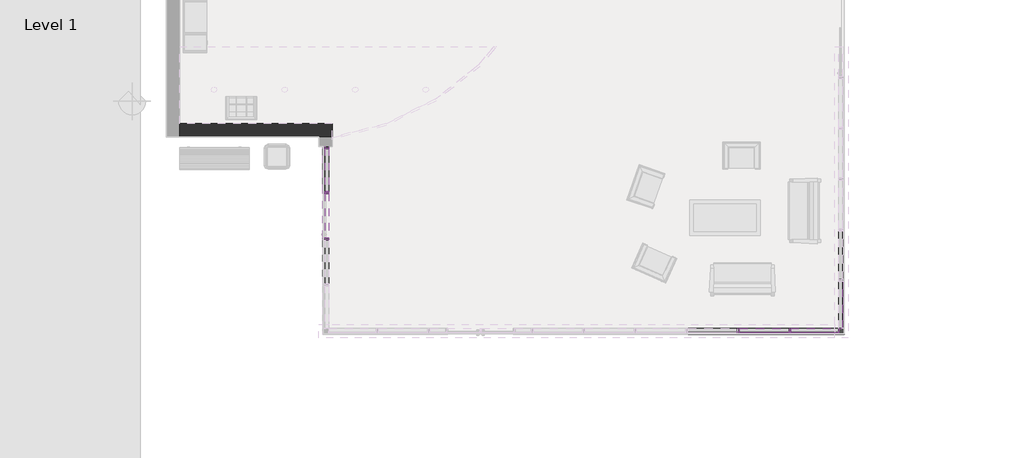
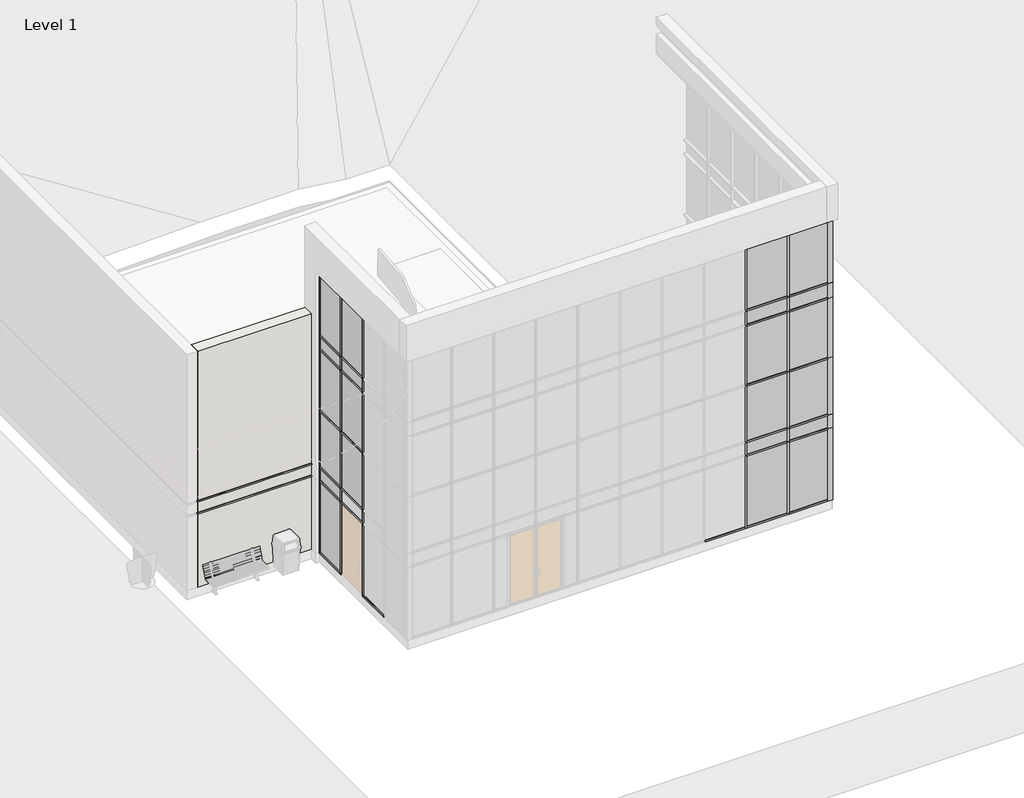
# One storey, part 3 of 6: 68 members, 29 plates, 1 wall.
"""IFC4 building model written with IfcOpenShell, lengths in millimetres."""

from ifc_helpers import new_model, si_unit, origin, place, context, project, spatial, faceted_brep, transform, mapped, element, save
from components import quad_corner_mullion_quad_mullion_1_fda5a4be, quad_corner_mullion_quad_mullion_1_bcb46a8a, quad_corner_mullion_quad_mullion_1_d3d17435, quad_corner_mullion_quad_mullion_1_17698892, quad_corner_mullion_quad_mullion_1_257211b5, quad_corner_mullion_quad_mullion_1_d4d7d3a7, rectangular_mullion_50_x_150mm_ae6afb2b, rectangular_mullion_50_x_150mm_9277cc62, rectangular_mullion_50_x_150mm_116e1582, rectangular_mullion_50_x_150mm_4a8db126, rectangular_mullion_50_x_150mm_f0eb3f16, rectangular_mullion_50_x_150mm_ef179906, rectangular_mullion_50_x_150mm_169d2d5c, rectangular_mullion_50_x_150mm_a98d9a75, rectangular_mullion_50_x_150mm_e5e1dcca, rectangular_mullion_50_x_150mm_47c0eb49, rectangular_mullion_50_x_150mm_2677f012, rectangular_mullion_50_x_150mm_686aa266, rectangular_mullion_50_x_150mm_55a91b40, rectangular_mullion_50_x_150mm_fd087c06, rectangular_mullion_50_x_150mm_fb94c6f7, rectangular_mullion_50_x_150mm_e243c0e9, rectangular_mullion_50_x_150mm_1c0c8fcc, rectangular_mullion_50_x_150mm_eadac301, rectangular_mullion_50_x_150mm_5d9cdbe7, rectangular_mullion_50_x_150mm_d8a6659f, rectangular_mullion_50_x_150mm_c664ab49, rectangular_mullion_50_x_150mm_22f77a7a, system_panel_glazed_b7e011ba, system_panel_glazed_fa8e781c, system_panel_glazed_2755e160, system_panel_glazed_915f67fa, system_panel_glazed_d3095f7c, system_panel_glazed_40405178, system_panel_glazed_9a941065, system_panel_glazed_8cd55946, system_panel_glazed_23c7b05c, system_panel_glazed_1235180c, system_panel_glazed_c9174913, system_panel_glazed_3aaf1b15, system_panel_glazed_c71bf8b9, system_panel_glazed_c9745aa0, system_panel_glazed_3c257985, system_panel_glazed_e39aac95, system_panel_glazed_619aa5c3, system_panel_glazed_1cc95e9d, system_panel_glazed_5f4b9808, system_panel_glazed_b287760b, system_panel_glazed_29643dd6, system_panel_glazed_af9e971b, system_panel_glazed_48c6fd0a, system_panel_glazed_b8e40a07, system_panel_glazed_b5705625, system_panel_glazed_676078d9, system_panel_glazed_869bd01b

model = new_model("IFC4")

# Units and contexts
model_context = context("Model", 3, world=origin())
ifc_project = project(units=[si_unit("LENGTHUNIT", "METRE", prefix="MILLI")], contexts=[model_context])

# Site, building, storey
site = spatial("IfcSite", under=ifc_project)
building = spatial("IfcBuilding", under=site)
storey = spatial("IfcBuildingStorey", under=building, Name="Level 1", Elevation=45720.0)

# Members
placement = place(None, origin())
quad_corner_mullion_quad_mullion_1_shape = quad_corner_mullion_quad_mullion_1_fda5a4be(model_context)
element("IfcMember", 1, ObjectType="Quad Corner Mullion : Quad Mullion 1", at=placement, inside=storey, context=model_context, shape_type="MappedRepresentation", body=[
    mapped(quad_corner_mullion_quad_mullion_1_shape, transform((3237.9561928, -8109.3373862, 55168.8), x_axis=(1.0, 0.0, 0.0), y_axis=(0.0, 1.0, 0.0), z_axis=(0.0, 0.0, 1.0))),
])
quad_corner_mullion_quad_mullion_1_2_shape = quad_corner_mullion_quad_mullion_1_bcb46a8a(model_context)
element("IfcMember", 2, ObjectType="Quad Corner Mullion : Quad Mullion 1", at=placement, inside=storey, context=model_context, shape_type="MappedRepresentation", body=[
    mapped(quad_corner_mullion_quad_mullion_1_2_shape, transform((3237.9561928, -8109.3373862, 48158.4), x_axis=(1.0, 0.0, 0.0), y_axis=(0.0, 1.0, 0.0), z_axis=(0.0, 0.0, 1.0))),
])
quad_corner_mullion_quad_mullion_1_3_shape = quad_corner_mullion_quad_mullion_1_d3d17435(model_context)
element("IfcMember", 3, ObjectType="Quad Corner Mullion : Quad Mullion 1", at=placement, inside=storey, context=model_context, shape_type="MappedRepresentation", body=[
    mapped(quad_corner_mullion_quad_mullion_1_3_shape, transform((3237.9561928, -8109.3373862, 48615.6), x_axis=(1.0, 0.0, 0.0), y_axis=(0.0, 1.0, 0.0), z_axis=(0.0, 0.0, 1.0))),
])
quad_corner_mullion_quad_mullion_1_4_shape = quad_corner_mullion_quad_mullion_1_17698892(model_context)
element("IfcMember", 4, ObjectType="Quad Corner Mullion : Quad Mullion 1", at=placement, inside=storey, context=model_context, shape_type="MappedRepresentation", body=[
    mapped(quad_corner_mullion_quad_mullion_1_4_shape, transform((3237.9561928, -8109.3373862, 50520.0), x_axis=(1.0, 0.0, 0.0), y_axis=(0.0, 1.0, 0.0), z_axis=(0.0, 0.0, 1.0))),
])
quad_corner_mullion_quad_mullion_1_5_shape = quad_corner_mullion_quad_mullion_1_257211b5(model_context)
element("IfcMember", 5, ObjectType="Quad Corner Mullion : Quad Mullion 1", at=placement, inside=storey, context=model_context, shape_type="MappedRepresentation", body=[
    mapped(quad_corner_mullion_quad_mullion_1_5_shape, transform((3237.9561928, -8109.3373862, 53035.2), x_axis=(1.0, 0.0, 0.0), y_axis=(0.0, 1.0, 0.0), z_axis=(0.0, 0.0, 1.0))),
])
quad_corner_mullion_quad_mullion_1_6_shape = quad_corner_mullion_quad_mullion_1_d4d7d3a7(model_context)
element("IfcMember", 6, ObjectType="Quad Corner Mullion : Quad Mullion 1", at=placement, inside=storey, context=model_context, shape_type="MappedRepresentation", body=[
    mapped(quad_corner_mullion_quad_mullion_1_6_shape, transform((3237.9561928, -8109.3373862, 52535.2), x_axis=(1.0, 0.0, 0.0), y_axis=(0.0, 1.0, 0.0), z_axis=(0.0, 0.0, 1.0))),
])
rectangular_mullion_50_x_150mm_shape = rectangular_mullion_50_x_150mm_ae6afb2b(model_context)
element("IfcMember", 7, ObjectType="Rectangular Mullion : 50 x 150mm", at=placement, inside=storey, context=model_context, shape_type="MappedRepresentation", body=[
    mapped(rectangular_mullion_50_x_150mm_shape, transform((-10125.6188072, -4493.4123862, 55168.8), x_axis=(0.0, 0.0, 1.0), y_axis=(-1.0, 0.0, 0.0), z_axis=(0.0, -1.0, 0.0))),
])
rectangular_mullion_50_x_150mm_2_shape = rectangular_mullion_50_x_150mm_9277cc62(model_context)
element("IfcMember", 8, ObjectType="Rectangular Mullion : 50 x 150mm", at=placement, inside=storey, context=model_context, shape_type="MappedRepresentation", body=[
    mapped(rectangular_mullion_50_x_150mm_2_shape, transform((-10125.6188072, -5690.3873862, 55168.8), x_axis=(0.0, 0.0, 1.0), y_axis=(-1.0, 0.0, 0.0), z_axis=(0.0, -1.0, 0.0))),
])
element("IfcMember", 9, ObjectType="Rectangular Mullion : 50 x 150mm", at=placement, inside=storey, context=model_context, shape_type="MappedRepresentation", body=[
    mapped(rectangular_mullion_50_x_150mm_shape, transform((-10125.6188072, -3371.4373862, 45720.0), x_axis=(0.0, 0.0, -1.0), y_axis=(-1.0, 0.0, 0.0), z_axis=(0.0, 1.0, 0.0))),
])
element("IfcMember", 10, ObjectType="Rectangular Mullion : 50 x 150mm", at=placement, inside=storey, context=model_context, shape_type="MappedRepresentation", body=[
    mapped(rectangular_mullion_50_x_150mm_2_shape, transform((-10125.6188072, -5740.3873862, 45720.0), x_axis=(0.0, 0.0, -1.0), y_axis=(-1.0, 0.0, 0.0), z_axis=(0.0, 1.0, 0.0))),
])
rectangular_mullion_50_x_150mm_3_shape = rectangular_mullion_50_x_150mm_116e1582(model_context)
element("IfcMember", 11, ObjectType="Rectangular Mullion : 50 x 150mm", at=placement, inside=storey, context=model_context, shape_type="MappedRepresentation", body=[
    mapped(rectangular_mullion_50_x_150mm_3_shape, transform((-10125.6188072, -3321.4373862, 55168.8), x_axis=(0.0, 1.0, 0.0), y_axis=(-1.0, 0.0, 0.0), z_axis=(0.0, 0.0, 1.0))),
])
rectangular_mullion_50_x_150mm_4_shape = rectangular_mullion_50_x_150mm_4a8db126(model_context)
element("IfcMember", 12, ObjectType="Rectangular Mullion : 50 x 150mm", at=placement, inside=storey, context=model_context, shape_type="MappedRepresentation", body=[
    mapped(rectangular_mullion_50_x_150mm_4_shape, transform((-10125.6188072, -3321.4373862, 48158.4), x_axis=(0.0, 1.0, 0.0), y_axis=(-1.0, 0.0, 0.0), z_axis=(0.0, 0.0, 1.0))),
])
rectangular_mullion_50_x_150mm_5_shape = rectangular_mullion_50_x_150mm_f0eb3f16(model_context)
element("IfcMember", 13, ObjectType="Rectangular Mullion : 50 x 150mm", at=placement, inside=storey, context=model_context, shape_type="MappedRepresentation", body=[
    mapped(rectangular_mullion_50_x_150mm_5_shape, transform((-10125.6188072, -3321.4373862, 50520.0), x_axis=(0.0, 1.0, 0.0), y_axis=(-1.0, 0.0, 0.0), z_axis=(0.0, 0.0, 1.0))),
])
rectangular_mullion_50_x_150mm_6_shape = rectangular_mullion_50_x_150mm_ef179906(model_context)
element("IfcMember", 14, ObjectType="Rectangular Mullion : 50 x 150mm", at=placement, inside=storey, context=model_context, shape_type="MappedRepresentation", body=[
    mapped(rectangular_mullion_50_x_150mm_6_shape, transform((-10125.6188072, -4493.4123862, 48158.4), x_axis=(0.0, 0.0, 1.0), y_axis=(-1.0, 0.0, 0.0), z_axis=(0.0, -1.0, 0.0))),
])
element("IfcMember", 15, ObjectType="Rectangular Mullion : 50 x 150mm", at=placement, inside=storey, context=model_context, shape_type="MappedRepresentation", body=[
    mapped(rectangular_mullion_50_x_150mm_6_shape, transform((-10125.6188072, -4493.4123862, 50520.0), x_axis=(0.0, 0.0, 1.0), y_axis=(-1.0, 0.0, 0.0), z_axis=(0.0, -1.0, 0.0))),
])
element("IfcMember", 16, ObjectType="Rectangular Mullion : 50 x 150mm", at=placement, inside=storey, context=model_context, shape_type="MappedRepresentation", body=[
    mapped(rectangular_mullion_50_x_150mm_6_shape, transform((-10125.6188072, -4493.4123862, 53035.2), x_axis=(0.0, 0.0, 1.0), y_axis=(-1.0, 0.0, 0.0), z_axis=(0.0, -1.0, 0.0))),
])
element("IfcMember", 17, ObjectType="Rectangular Mullion : 50 x 150mm", at=placement, inside=storey, context=model_context, shape_type="MappedRepresentation", body=[
    mapped(rectangular_mullion_50_x_150mm_6_shape, transform((-10125.6188072, -4493.4123862, 48615.6), x_axis=(0.0, 0.0, 1.0), y_axis=(-1.0, 0.0, 0.0), z_axis=(0.0, -1.0, 0.0))),
])
element("IfcMember", 18, ObjectType="Rectangular Mullion : 50 x 150mm", at=placement, inside=storey, context=model_context, shape_type="MappedRepresentation", body=[
    mapped(rectangular_mullion_50_x_150mm_6_shape, transform((-10125.6188072, -4493.4123862, 52578.0), x_axis=(0.0, 0.0, 1.0), y_axis=(-1.0, 0.0, 0.0), z_axis=(0.0, -1.0, 0.0))),
])
rectangular_mullion_50_x_150mm_7_shape = rectangular_mullion_50_x_150mm_169d2d5c(model_context)
element("IfcMember", 19, ObjectType="Rectangular Mullion : 50 x 150mm", at=placement, inside=storey, context=model_context, shape_type="MappedRepresentation", body=[
    mapped(rectangular_mullion_50_x_150mm_7_shape, transform((-10125.6188072, -5690.3873862, 48158.4), x_axis=(0.0, 0.0, 1.0), y_axis=(-1.0, 0.0, 0.0), z_axis=(0.0, -1.0, 0.0))),
])
element("IfcMember", 20, ObjectType="Rectangular Mullion : 50 x 150mm", at=placement, inside=storey, context=model_context, shape_type="MappedRepresentation", body=[
    mapped(rectangular_mullion_50_x_150mm_7_shape, transform((-10125.6188072, -5690.3873862, 50520.0), x_axis=(0.0, 0.0, 1.0), y_axis=(-1.0, 0.0, 0.0), z_axis=(0.0, -1.0, 0.0))),
])
element("IfcMember", 21, ObjectType="Rectangular Mullion : 50 x 150mm", at=placement, inside=storey, context=model_context, shape_type="MappedRepresentation", body=[
    mapped(rectangular_mullion_50_x_150mm_7_shape, transform((-10125.6188072, -5690.3873862, 53035.2), x_axis=(0.0, 0.0, 1.0), y_axis=(-1.0, 0.0, 0.0), z_axis=(0.0, -1.0, 0.0))),
])
element("IfcMember", 22, ObjectType="Rectangular Mullion : 50 x 150mm", at=placement, inside=storey, context=model_context, shape_type="MappedRepresentation", body=[
    mapped(rectangular_mullion_50_x_150mm_7_shape, transform((-10125.6188072, -5690.3873862, 48615.6), x_axis=(0.0, 0.0, 1.0), y_axis=(-1.0, 0.0, 0.0), z_axis=(0.0, -1.0, 0.0))),
])
element("IfcMember", 23, ObjectType="Rectangular Mullion : 50 x 150mm", at=placement, inside=storey, context=model_context, shape_type="MappedRepresentation", body=[
    mapped(rectangular_mullion_50_x_150mm_7_shape, transform((-10125.6188072, -5690.3873862, 52578.0), x_axis=(0.0, 0.0, 1.0), y_axis=(-1.0, 0.0, 0.0), z_axis=(0.0, -1.0, 0.0))),
])
rectangular_mullion_50_x_150mm_8_shape = rectangular_mullion_50_x_150mm_a98d9a75(model_context)
element("IfcMember", 24, ObjectType="Rectangular Mullion : 50 x 150mm", at=placement, inside=storey, context=model_context, shape_type="MappedRepresentation", body=[
    mapped(rectangular_mullion_50_x_150mm_8_shape, transform((-10125.6188072, -4518.4123862, 45720.0), x_axis=(0.0, -1.0, 0.0), y_axis=(-1.0, 0.0, 0.0), z_axis=(0.0, 0.0, -1.0))),
])
element("IfcMember", 25, ObjectType="Rectangular Mullion : 50 x 150mm", at=placement, inside=storey, context=model_context, shape_type="MappedRepresentation", body=[
    mapped(rectangular_mullion_50_x_150mm_8_shape, transform((-10125.6188072, -5715.3873862, 45720.0), x_axis=(0.0, -1.0, 0.0), y_axis=(-1.0, 0.0, 0.0), z_axis=(0.0, 0.0, -1.0))),
])
rectangular_mullion_50_x_150mm_9_shape = rectangular_mullion_50_x_150mm_e5e1dcca(model_context)
element("IfcMember", 26, ObjectType="Rectangular Mullion : 50 x 150mm", at=placement, inside=storey, context=model_context, shape_type="MappedRepresentation", body=[
    mapped(rectangular_mullion_50_x_150mm_9_shape, transform((-10125.6188072, -4518.4123862, 48158.4), x_axis=(0.0, -1.0, 0.0), y_axis=(-1.0, 0.0, 0.0), z_axis=(0.0, 0.0, -1.0))),
])
element("IfcMember", 27, ObjectType="Rectangular Mullion : 50 x 150mm", at=placement, inside=storey, context=model_context, shape_type="MappedRepresentation", body=[
    mapped(rectangular_mullion_50_x_150mm_9_shape, transform((-10125.6188072, -5715.3873862, 48158.4), x_axis=(0.0, -1.0, 0.0), y_axis=(-1.0, 0.0, 0.0), z_axis=(0.0, 0.0, -1.0))),
])
element("IfcMember", 28, ObjectType="Rectangular Mullion : 50 x 150mm", at=placement, inside=storey, context=model_context, shape_type="MappedRepresentation", body=[
    mapped(rectangular_mullion_50_x_150mm_9_shape, transform((-10125.6188072, -4518.4123862, 52578.0), x_axis=(0.0, -1.0, 0.0), y_axis=(-1.0, 0.0, 0.0), z_axis=(0.0, 0.0, -1.0))),
])
element("IfcMember", 29, ObjectType="Rectangular Mullion : 50 x 150mm", at=placement, inside=storey, context=model_context, shape_type="MappedRepresentation", body=[
    mapped(rectangular_mullion_50_x_150mm_9_shape, transform((-10125.6188072, -5715.3873862, 52578.0), x_axis=(0.0, -1.0, 0.0), y_axis=(-1.0, 0.0, 0.0), z_axis=(0.0, 0.0, -1.0))),
])
rectangular_mullion_50_x_150mm_10_shape = rectangular_mullion_50_x_150mm_47c0eb49(model_context)
element("IfcMember", 30, ObjectType="Rectangular Mullion : 50 x 150mm", at=placement, inside=storey, context=model_context, shape_type="MappedRepresentation", body=[
    mapped(rectangular_mullion_50_x_150mm_10_shape, transform((-10125.6188072, -4518.4123862, 50520.0), x_axis=(0.0, -1.0, 0.0), y_axis=(-1.0, 0.0, 0.0), z_axis=(0.0, 0.0, -1.0))),
])
element("IfcMember", 31, ObjectType="Rectangular Mullion : 50 x 150mm", at=placement, inside=storey, context=model_context, shape_type="MappedRepresentation", body=[
    mapped(rectangular_mullion_50_x_150mm_10_shape, transform((-10125.6188072, -5715.3873862, 50520.0), x_axis=(0.0, -1.0, 0.0), y_axis=(-1.0, 0.0, 0.0), z_axis=(0.0, 0.0, -1.0))),
])
rectangular_mullion_50_x_150mm_11_shape = rectangular_mullion_50_x_150mm_2677f012(model_context)
element("IfcMember", 32, ObjectType="Rectangular Mullion : 50 x 150mm", at=placement, inside=storey, context=model_context, shape_type="MappedRepresentation", body=[
    mapped(rectangular_mullion_50_x_150mm_11_shape, transform((-10125.6188072, -4518.4123862, 53035.2), x_axis=(0.0, -1.0, 0.0), y_axis=(-1.0, 0.0, 0.0), z_axis=(0.0, 0.0, -1.0))),
])
element("IfcMember", 33, ObjectType="Rectangular Mullion : 50 x 150mm", at=placement, inside=storey, context=model_context, shape_type="MappedRepresentation", body=[
    mapped(rectangular_mullion_50_x_150mm_11_shape, transform((-10125.6188072, -5715.3873862, 53035.2), x_axis=(0.0, -1.0, 0.0), y_axis=(-1.0, 0.0, 0.0), z_axis=(0.0, 0.0, -1.0))),
])
rectangular_mullion_50_x_150mm_12_shape = rectangular_mullion_50_x_150mm_686aa266(model_context)
element("IfcMember", 34, ObjectType="Rectangular Mullion : 50 x 150mm", at=placement, inside=storey, context=model_context, shape_type="MappedRepresentation", body=[
    mapped(rectangular_mullion_50_x_150mm_12_shape, transform((-10125.6188072, -3321.4373862, 53035.2), x_axis=(0.0, 1.0, 0.0), y_axis=(-1.0, 0.0, 0.0), z_axis=(0.0, 0.0, 1.0))),
])
element("IfcMember", 35, ObjectType="Rectangular Mullion : 50 x 150mm", at=placement, inside=storey, context=model_context, shape_type="MappedRepresentation", body=[
    mapped(rectangular_mullion_50_x_150mm_12_shape, transform((-10125.6188072, -3321.4373862, 48615.6), x_axis=(0.0, 1.0, 0.0), y_axis=(-1.0, 0.0, 0.0), z_axis=(0.0, 0.0, 1.0))),
])
rectangular_mullion_50_x_150mm_13_shape = rectangular_mullion_50_x_150mm_55a91b40(model_context)
element("IfcMember", 36, ObjectType="Rectangular Mullion : 50 x 150mm", at=placement, inside=storey, context=model_context, shape_type="MappedRepresentation", body=[
    mapped(rectangular_mullion_50_x_150mm_13_shape, transform((-10125.6188072, -4518.4123862, 48615.6), x_axis=(0.0, -1.0, 0.0), y_axis=(-1.0, 0.0, 0.0), z_axis=(0.0, 0.0, -1.0))),
])
element("IfcMember", 37, ObjectType="Rectangular Mullion : 50 x 150mm", at=placement, inside=storey, context=model_context, shape_type="MappedRepresentation", body=[
    mapped(rectangular_mullion_50_x_150mm_13_shape, transform((-10125.6188072, -5715.3873862, 48615.6), x_axis=(0.0, -1.0, 0.0), y_axis=(-1.0, 0.0, 0.0), z_axis=(0.0, 0.0, -1.0))),
])
rectangular_mullion_50_x_150mm_14_shape = rectangular_mullion_50_x_150mm_fd087c06(model_context)
element("IfcMember", 38, ObjectType="Rectangular Mullion : 50 x 150mm", at=placement, inside=storey, context=model_context, shape_type="MappedRepresentation", body=[
    mapped(rectangular_mullion_50_x_150mm_14_shape, transform((-10125.6188072, -3321.4373862, 52578.0), x_axis=(0.0, 1.0, 0.0), y_axis=(-1.0, 0.0, 0.0), z_axis=(0.0, 0.0, 1.0))),
])
rectangular_mullion_50_x_150mm_15_shape = rectangular_mullion_50_x_150mm_fb94c6f7(model_context)
element("IfcMember", 39, ObjectType="Rectangular Mullion : 50 x 150mm", at=placement, inside=storey, context=model_context, shape_type="MappedRepresentation", body=[
    mapped(rectangular_mullion_50_x_150mm_15_shape, transform((3237.9561928, -6768.7818307, 45720.0), x_axis=(0.0, 0.0, -1.0), y_axis=(1.0, 0.0, 0.0), z_axis=(0.0, -1.0, 0.0))),
])
rectangular_mullion_50_x_150mm_16_shape = rectangular_mullion_50_x_150mm_e243c0e9(model_context)
element("IfcMember", 40, ObjectType="Rectangular Mullion : 50 x 150mm", at=placement, inside=storey, context=model_context, shape_type="MappedRepresentation", body=[
    mapped(rectangular_mullion_50_x_150mm_16_shape, transform((3237.9561928, -6818.7818307, 55168.8), x_axis=(0.0, 0.0, 1.0), y_axis=(1.0, 0.0, 0.0), z_axis=(0.0, 1.0, 0.0))),
])
element("IfcMember", 41, ObjectType="Rectangular Mullion : 50 x 150mm", at=placement, inside=storey, context=model_context, shape_type="MappedRepresentation", body=[
    mapped(rectangular_mullion_50_x_150mm_16_shape, transform((3237.9561928, -8034.3373862, 45720.0), x_axis=(0.0, 0.0, -1.0), y_axis=(1.0, 0.0, 0.0), z_axis=(0.0, -1.0, 0.0))),
])
element("IfcMember", 42, ObjectType="Rectangular Mullion : 50 x 150mm", at=placement, inside=storey, context=model_context, shape_type="MappedRepresentation", body=[
    mapped(rectangular_mullion_50_x_150mm_9_shape, transform((565.2411928, -8109.3373862, 48158.4), x_axis=(-1.0, 0.0, 0.0), y_axis=(0.0, 1.0, 0.0), z_axis=(0.0, 0.0, -1.0))),
])
element("IfcMember", 43, ObjectType="Rectangular Mullion : 50 x 150mm", at=placement, inside=storey, context=model_context, shape_type="MappedRepresentation", body=[
    mapped(rectangular_mullion_50_x_150mm_9_shape, transform((1901.5986928, -8109.3373862, 48158.4), x_axis=(-1.0, 0.0, 0.0), y_axis=(0.0, 1.0, 0.0), z_axis=(0.0, 0.0, -1.0))),
])
element("IfcMember", 44, ObjectType="Rectangular Mullion : 50 x 150mm", at=placement, inside=storey, context=model_context, shape_type="MappedRepresentation", body=[
    mapped(rectangular_mullion_50_x_150mm_13_shape, transform((565.2411928, -8109.3373862, 48615.6), x_axis=(-1.0, 0.0, 0.0), y_axis=(0.0, 1.0, 0.0), z_axis=(0.0, 0.0, -1.0))),
])
element("IfcMember", 45, ObjectType="Rectangular Mullion : 50 x 150mm", at=placement, inside=storey, context=model_context, shape_type="MappedRepresentation", body=[
    mapped(rectangular_mullion_50_x_150mm_13_shape, transform((1901.5986928, -8109.3373862, 48615.6), x_axis=(-1.0, 0.0, 0.0), y_axis=(0.0, 1.0, 0.0), z_axis=(0.0, 0.0, -1.0))),
])
element("IfcMember", 46, ObjectType="Rectangular Mullion : 50 x 150mm", at=placement, inside=storey, context=model_context, shape_type="MappedRepresentation", body=[
    mapped(rectangular_mullion_50_x_150mm_11_shape, transform((1901.5986928, -8109.3373862, 53035.2), x_axis=(-1.0, 0.0, 0.0), y_axis=(0.0, 1.0, 0.0), z_axis=(0.0, 0.0, -1.0))),
])
element("IfcMember", 47, ObjectType="Rectangular Mullion : 50 x 150mm", at=placement, inside=storey, context=model_context, shape_type="MappedRepresentation", body=[
    mapped(rectangular_mullion_50_x_150mm_11_shape, transform((565.2411928, -8109.3373862, 53035.2), x_axis=(-1.0, 0.0, 0.0), y_axis=(0.0, 1.0, 0.0), z_axis=(0.0, 0.0, -1.0))),
])
element("IfcMember", 48, ObjectType="Rectangular Mullion : 50 x 150mm", at=placement, inside=storey, context=model_context, shape_type="MappedRepresentation", body=[
    mapped(rectangular_mullion_50_x_150mm_8_shape, transform((1901.5986928, -8109.3373862, 45720.0), x_axis=(-1.0, 0.0, 0.0), y_axis=(0.0, 1.0, 0.0), z_axis=(0.0, 0.0, -1.0))),
])
element("IfcMember", 49, ObjectType="Rectangular Mullion : 50 x 150mm", at=placement, inside=storey, context=model_context, shape_type="MappedRepresentation", body=[
    mapped(rectangular_mullion_50_x_150mm_8_shape, transform((565.2411928, -8109.3373862, 45720.0), x_axis=(-1.0, 0.0, 0.0), y_axis=(0.0, 1.0, 0.0), z_axis=(0.0, 0.0, -1.0))),
])
rectangular_mullion_50_x_150mm_17_shape = rectangular_mullion_50_x_150mm_1c0c8fcc(model_context)
element("IfcMember", 50, ObjectType="Rectangular Mullion : 50 x 150mm", at=placement, inside=storey, context=model_context, shape_type="MappedRepresentation", body=[
    mapped(rectangular_mullion_50_x_150mm_17_shape, transform((590.2411928, -8109.3373862, 48615.6), x_axis=(0.0, 0.0, 1.0), y_axis=(0.0, 1.0, 0.0), z_axis=(-1.0, 0.0, 0.0))),
])
element("IfcMember", 51, ObjectType="Rectangular Mullion : 50 x 150mm", at=placement, inside=storey, context=model_context, shape_type="MappedRepresentation", body=[
    mapped(rectangular_mullion_50_x_150mm_17_shape, transform((590.2411928, -8109.3373862, 48158.4), x_axis=(0.0, 0.0, 1.0), y_axis=(0.0, 1.0, 0.0), z_axis=(-1.0, 0.0, 0.0))),
])
element("IfcMember", 52, ObjectType="Rectangular Mullion : 50 x 150mm", at=placement, inside=storey, context=model_context, shape_type="MappedRepresentation", body=[
    mapped(rectangular_mullion_50_x_150mm_17_shape, transform((590.2411928, -8109.3373862, 53035.2), x_axis=(0.0, 0.0, 1.0), y_axis=(0.0, 1.0, 0.0), z_axis=(-1.0, 0.0, 0.0))),
])
element("IfcMember", 53, ObjectType="Rectangular Mullion : 50 x 150mm", at=placement, inside=storey, context=model_context, shape_type="MappedRepresentation", body=[
    mapped(rectangular_mullion_50_x_150mm_17_shape, transform((590.2411928, -8109.3373862, 50520.0), x_axis=(0.0, 0.0, 1.0), y_axis=(0.0, 1.0, 0.0), z_axis=(-1.0, 0.0, 0.0))),
])
element("IfcMember", 54, ObjectType="Rectangular Mullion : 50 x 150mm", at=placement, inside=storey, context=model_context, shape_type="MappedRepresentation", body=[
    mapped(rectangular_mullion_50_x_150mm_17_shape, transform((590.2411928, -8109.3373862, 52535.2), x_axis=(0.0, 0.0, 1.0), y_axis=(0.0, 1.0, 0.0), z_axis=(-1.0, 0.0, 0.0))),
])
rectangular_mullion_50_x_150mm_18_shape = rectangular_mullion_50_x_150mm_eadac301(model_context)
element("IfcMember", 55, ObjectType="Rectangular Mullion : 50 x 150mm", at=placement, inside=storey, context=model_context, shape_type="MappedRepresentation", body=[
    mapped(rectangular_mullion_50_x_150mm_18_shape, transform((1926.5986928, -8109.3373862, 50520.0), x_axis=(0.0, 0.0, 1.0), y_axis=(0.0, 1.0, 0.0), z_axis=(-1.0, 0.0, 0.0))),
])
element("IfcMember", 56, ObjectType="Rectangular Mullion : 50 x 150mm", at=placement, inside=storey, context=model_context, shape_type="MappedRepresentation", body=[
    mapped(rectangular_mullion_50_x_150mm_18_shape, transform((1926.5986928, -8109.3373862, 48615.6), x_axis=(0.0, 0.0, 1.0), y_axis=(0.0, 1.0, 0.0), z_axis=(-1.0, 0.0, 0.0))),
])
element("IfcMember", 57, ObjectType="Rectangular Mullion : 50 x 150mm", at=placement, inside=storey, context=model_context, shape_type="MappedRepresentation", body=[
    mapped(rectangular_mullion_50_x_150mm_18_shape, transform((1926.5986928, -8109.3373862, 48158.4), x_axis=(0.0, 0.0, 1.0), y_axis=(0.0, 1.0, 0.0), z_axis=(-1.0, 0.0, 0.0))),
])
element("IfcMember", 58, ObjectType="Rectangular Mullion : 50 x 150mm", at=placement, inside=storey, context=model_context, shape_type="MappedRepresentation", body=[
    mapped(rectangular_mullion_50_x_150mm_18_shape, transform((1926.5986928, -8109.3373862, 53035.2), x_axis=(0.0, 0.0, 1.0), y_axis=(0.0, 1.0, 0.0), z_axis=(-1.0, 0.0, 0.0))),
])
element("IfcMember", 59, ObjectType="Rectangular Mullion : 50 x 150mm", at=placement, inside=storey, context=model_context, shape_type="MappedRepresentation", body=[
    mapped(rectangular_mullion_50_x_150mm_18_shape, transform((1926.5986928, -8109.3373862, 52535.2), x_axis=(0.0, 0.0, 1.0), y_axis=(0.0, 1.0, 0.0), z_axis=(-1.0, 0.0, 0.0))),
])
rectangular_mullion_50_x_150mm_19_shape = rectangular_mullion_50_x_150mm_5d9cdbe7(model_context)
element("IfcMember", 60, ObjectType="Rectangular Mullion : 50 x 150mm", at=placement, inside=storey, context=model_context, shape_type="MappedRepresentation", body=[
    mapped(rectangular_mullion_50_x_150mm_19_shape, transform((1876.5986928, -8109.3373862, 45720.0), x_axis=(0.0, 0.0, -1.0), y_axis=(0.0, 1.0, 0.0), z_axis=(1.0, 0.0, 0.0))),
])
element("IfcMember", 61, ObjectType="Rectangular Mullion : 50 x 150mm", at=placement, inside=storey, context=model_context, shape_type="MappedRepresentation", body=[
    mapped(rectangular_mullion_50_x_150mm_19_shape, transform((540.2411928, -8109.3373862, 45720.0), x_axis=(0.0, 0.0, -1.0), y_axis=(0.0, 1.0, 0.0), z_axis=(1.0, 0.0, 0.0))),
])
element("IfcMember", 62, ObjectType="Rectangular Mullion : 50 x 150mm", at=placement, inside=storey, context=model_context, shape_type="MappedRepresentation", body=[
    mapped(rectangular_mullion_50_x_150mm_19_shape, transform((590.2411928, -8109.3373862, 55168.8), x_axis=(0.0, 0.0, 1.0), y_axis=(0.0, 1.0, 0.0), z_axis=(-1.0, 0.0, 0.0))),
])
rectangular_mullion_50_x_150mm_20_shape = rectangular_mullion_50_x_150mm_d8a6659f(model_context)
element("IfcMember", 63, ObjectType="Rectangular Mullion : 50 x 150mm", at=placement, inside=storey, context=model_context, shape_type="MappedRepresentation", body=[
    mapped(rectangular_mullion_50_x_150mm_20_shape, transform((1926.5986928, -8109.3373862, 55168.8), x_axis=(0.0, 0.0, 1.0), y_axis=(0.0, 1.0, 0.0), z_axis=(-1.0, 0.0, 0.0))),
])
element("IfcMember", 64, ObjectType="Rectangular Mullion : 50 x 150mm", at=placement, inside=storey, context=model_context, shape_type="MappedRepresentation", body=[
    mapped(rectangular_mullion_50_x_150mm_20_shape, transform((3162.9561928, -8109.3373862, 45720.0), x_axis=(0.0, 0.0, -1.0), y_axis=(0.0, 1.0, 0.0), z_axis=(1.0, 0.0, 0.0))),
])
rectangular_mullion_50_x_150mm_21_shape = rectangular_mullion_50_x_150mm_c664ab49(model_context)
element("IfcMember", 65, ObjectType="Rectangular Mullion : 50 x 150mm", at=placement, inside=storey, context=model_context, shape_type="MappedRepresentation", body=[
    mapped(rectangular_mullion_50_x_150mm_21_shape, transform((565.2411928, -8109.3373862, 50520.0), x_axis=(-1.0, 0.0, 0.0), y_axis=(0.0, 1.0, 0.0), z_axis=(0.0, 0.0, -1.0))),
])
element("IfcMember", 66, ObjectType="Rectangular Mullion : 50 x 150mm", at=placement, inside=storey, context=model_context, shape_type="MappedRepresentation", body=[
    mapped(rectangular_mullion_50_x_150mm_21_shape, transform((1901.5986928, -8109.3373862, 50520.0), x_axis=(-1.0, 0.0, 0.0), y_axis=(0.0, 1.0, 0.0), z_axis=(0.0, 0.0, -1.0))),
])
rectangular_mullion_50_x_150mm_22_shape = rectangular_mullion_50_x_150mm_22f77a7a(model_context)
element("IfcMember", 67, ObjectType="Rectangular Mullion : 50 x 150mm", at=placement, inside=storey, context=model_context, shape_type="MappedRepresentation", body=[
    mapped(rectangular_mullion_50_x_150mm_22_shape, transform((565.2411928, -8109.3373862, 52535.2), x_axis=(-1.0, 0.0, 0.0), y_axis=(0.0, 1.0, 0.0), z_axis=(0.0, 0.0, -1.0))),
])
element("IfcMember", 68, ObjectType="Rectangular Mullion : 50 x 150mm", at=placement, inside=storey, context=model_context, shape_type="MappedRepresentation", body=[
    mapped(rectangular_mullion_50_x_150mm_22_shape, transform((1901.5986928, -8109.3373862, 52535.2), x_axis=(-1.0, 0.0, 0.0), y_axis=(0.0, 1.0, 0.0), z_axis=(0.0, 0.0, -1.0))),
])

# Plates
system_panel_glazed_shape = system_panel_glazed_b7e011ba(model_context)
element("IfcPlate", 69, ObjectType="System Panel : Glazed", at=placement, inside=storey, context=model_context, shape_type="MappedRepresentation", body=[
    mapped(system_panel_glazed_shape, transform((-10125.6188072, -3932.4248862, 45770.0), x_axis=(0.0, -1.0, 0.0), y_axis=(1.0, 0.0, 0.0), z_axis=(0.0, 0.0, 1.0))),
])
system_panel_glazed_2_shape = system_panel_glazed_fa8e781c(model_context)
element("IfcPlate", 70, ObjectType="System Panel : Glazed", at=placement, inside=storey, context=model_context, shape_type="MappedRepresentation", body=[
    mapped(system_panel_glazed_2_shape, transform((-10125.6188072, -3932.4248862, 48183.4), x_axis=(0.0, -1.0, 0.0), y_axis=(1.0, 0.0, 0.0), z_axis=(0.0, 0.0, 1.0))),
])
element("IfcPlate", 71, ObjectType="System Panel : Glazed", at=placement, inside=storey, context=model_context, shape_type="MappedRepresentation", body=[
    mapped(system_panel_glazed_2_shape, transform((-10125.6188072, -3932.4248862, 52603.0), x_axis=(0.0, -1.0, 0.0), y_axis=(1.0, 0.0, 0.0), z_axis=(0.0, 0.0, 1.0))),
])
system_panel_glazed_3_shape = system_panel_glazed_2755e160(model_context)
element("IfcPlate", 72, ObjectType="System Panel : Glazed", at=placement, inside=storey, context=model_context, shape_type="MappedRepresentation", body=[
    mapped(system_panel_glazed_3_shape, transform((-10125.6188072, -5116.8998862, 52603.0), x_axis=(0.0, -1.0, 0.0), y_axis=(1.0, 0.0, 0.0), z_axis=(0.0, 0.0, 1.0))),
])
system_panel_glazed_4_shape = system_panel_glazed_915f67fa(model_context)
element("IfcPlate", 73, ObjectType="System Panel : Glazed", at=placement, inside=storey, context=model_context, shape_type="MappedRepresentation", body=[
    mapped(system_panel_glazed_4_shape, transform((-10125.6188072, -3932.4248862, 50545.0), x_axis=(0.0, -1.0, 0.0), y_axis=(1.0, 0.0, 0.0), z_axis=(0.0, 0.0, 1.0))),
])
system_panel_glazed_5_shape = system_panel_glazed_d3095f7c(model_context)
element("IfcPlate", 74, ObjectType="System Panel : Glazed", at=placement, inside=storey, context=model_context, shape_type="MappedRepresentation", body=[
    mapped(system_panel_glazed_5_shape, transform((-10125.6188072, -5116.8998862, 50545.0), x_axis=(0.0, -1.0, 0.0), y_axis=(1.0, 0.0, 0.0), z_axis=(0.0, 0.0, 1.0))),
])
system_panel_glazed_6_shape = system_panel_glazed_40405178(model_context)
element("IfcPlate", 75, ObjectType="System Panel : Glazed", at=placement, inside=storey, context=model_context, shape_type="MappedRepresentation", body=[
    mapped(system_panel_glazed_6_shape, transform((-10125.6188072, -3932.4248862, 53060.2), x_axis=(0.0, -1.0, 0.0), y_axis=(1.0, 0.0, 0.0), z_axis=(0.0, 0.0, 1.0))),
])
system_panel_glazed_7_shape = system_panel_glazed_9a941065(model_context)
element("IfcPlate", 76, ObjectType="System Panel : Glazed", at=placement, inside=storey, context=model_context, shape_type="MappedRepresentation", body=[
    mapped(system_panel_glazed_7_shape, transform((-10125.6188072, -5116.8998862, 53060.2), x_axis=(0.0, -1.0, 0.0), y_axis=(1.0, 0.0, 0.0), z_axis=(0.0, 0.0, 1.0))),
])
system_panel_glazed_8_shape = system_panel_glazed_8cd55946(model_context)
element("IfcPlate", 77, ObjectType="System Panel : Glazed", at=placement, inside=storey, context=model_context, shape_type="MappedRepresentation", body=[
    mapped(system_panel_glazed_8_shape, transform((-10125.6188072, -3932.4248862, 48640.6), x_axis=(0.0, -1.0, 0.0), y_axis=(1.0, 0.0, 0.0), z_axis=(0.0, 0.0, 1.0))),
])
system_panel_glazed_9_shape = system_panel_glazed_23c7b05c(model_context)
element("IfcPlate", 78, ObjectType="System Panel : Glazed", at=placement, inside=storey, context=model_context, shape_type="MappedRepresentation", body=[
    mapped(system_panel_glazed_9_shape, transform((-10125.6188072, -5116.8998862, 48640.6), x_axis=(0.0, -1.0, 0.0), y_axis=(1.0, 0.0, 0.0), z_axis=(0.0, 0.0, 1.0))),
])
system_panel_glazed_10_shape = system_panel_glazed_1235180c(model_context)
element("IfcPlate", 79, ObjectType="System Panel : Glazed", at=placement, inside=storey, context=model_context, shape_type="MappedRepresentation", body=[
    mapped(system_panel_glazed_10_shape, transform((3237.9561928, -6136.0040529, 45770.0), x_axis=(0.0, 1.0, 0.0), y_axis=(-1.0, 0.0, 0.0), z_axis=(0.0, 0.0, 1.0))),
])
system_panel_glazed_11_shape = system_panel_glazed_c9174913(model_context)
element("IfcPlate", 80, ObjectType="System Panel : Glazed", at=placement, inside=storey, context=model_context, shape_type="MappedRepresentation", body=[
    mapped(system_panel_glazed_11_shape, transform((3237.9561928, -7426.5596084, 45770.0), x_axis=(0.0, 1.0, 0.0), y_axis=(-1.0, 0.0, 0.0), z_axis=(0.0, 0.0, 1.0))),
])
system_panel_glazed_12_shape = system_panel_glazed_3aaf1b15(model_context)
element("IfcPlate", 81, ObjectType="System Panel : Glazed", at=placement, inside=storey, context=model_context, shape_type="MappedRepresentation", body=[
    mapped(system_panel_glazed_12_shape, transform((3237.9561928, -7426.5596084, 48183.4), x_axis=(0.0, 1.0, 0.0), y_axis=(-1.0, 0.0, 0.0), z_axis=(0.0, 0.0, 1.0))),
])
element("IfcPlate", 82, ObjectType="System Panel : Glazed", at=placement, inside=storey, context=model_context, shape_type="MappedRepresentation", body=[
    mapped(system_panel_glazed_12_shape, transform((3237.9561928, -7426.5596084, 52603.0), x_axis=(0.0, 1.0, 0.0), y_axis=(-1.0, 0.0, 0.0), z_axis=(0.0, 0.0, 1.0))),
])
system_panel_glazed_13_shape = system_panel_glazed_c71bf8b9(model_context)
element("IfcPlate", 83, ObjectType="System Panel : Glazed", at=placement, inside=storey, context=model_context, shape_type="MappedRepresentation", body=[
    mapped(system_panel_glazed_13_shape, transform((3237.9561928, -7426.5596084, 50545.0), x_axis=(0.0, 1.0, 0.0), y_axis=(-1.0, 0.0, 0.0), z_axis=(0.0, 0.0, 1.0))),
])
system_panel_glazed_14_shape = system_panel_glazed_c9745aa0(model_context)
element("IfcPlate", 84, ObjectType="System Panel : Glazed", at=placement, inside=storey, context=model_context, shape_type="MappedRepresentation", body=[
    mapped(system_panel_glazed_14_shape, transform((3237.9561928, -7426.5596084, 53060.2), x_axis=(0.0, 1.0, 0.0), y_axis=(-1.0, 0.0, 0.0), z_axis=(0.0, 0.0, 1.0))),
])
system_panel_glazed_15_shape = system_panel_glazed_3c257985(model_context)
element("IfcPlate", 85, ObjectType="System Panel : Glazed", at=placement, inside=storey, context=model_context, shape_type="MappedRepresentation", body=[
    mapped(system_panel_glazed_15_shape, transform((3237.9561928, -7426.5596084, 48640.6), x_axis=(0.0, 1.0, 0.0), y_axis=(-1.0, 0.0, 0.0), z_axis=(0.0, 0.0, 1.0))),
])
system_panel_glazed_16_shape = system_panel_glazed_e39aac95(model_context)
element("IfcPlate", 86, ObjectType="System Panel : Glazed", at=placement, inside=storey, context=model_context, shape_type="MappedRepresentation", body=[
    mapped(system_panel_glazed_16_shape, transform((2544.7774428, -8109.3373862, 45770.0), x_axis=(-1.0, 0.0, 0.0), y_axis=(0.0, -1.0, 0.0), z_axis=(0.0, 0.0, 1.0))),
])
system_panel_glazed_17_shape = system_panel_glazed_619aa5c3(model_context)
element("IfcPlate", 87, ObjectType="System Panel : Glazed", at=placement, inside=storey, context=model_context, shape_type="MappedRepresentation", body=[
    mapped(system_panel_glazed_17_shape, transform((2544.7774428, -8109.3373862, 48183.4), x_axis=(-1.0, 0.0, 0.0), y_axis=(0.0, -1.0, 0.0), z_axis=(0.0, 0.0, 1.0))),
])
system_panel_glazed_18_shape = system_panel_glazed_1cc95e9d(model_context)
element("IfcPlate", 88, ObjectType="System Panel : Glazed", at=placement, inside=storey, context=model_context, shape_type="MappedRepresentation", body=[
    mapped(system_panel_glazed_18_shape, transform((2544.7774428, -8109.3373862, 48640.6), x_axis=(-1.0, 0.0, 0.0), y_axis=(0.0, -1.0, 0.0), z_axis=(0.0, 0.0, 1.0))),
])
system_panel_glazed_19_shape = system_panel_glazed_5f4b9808(model_context)
element("IfcPlate", 89, ObjectType="System Panel : Glazed", at=placement, inside=storey, context=model_context, shape_type="MappedRepresentation", body=[
    mapped(system_panel_glazed_19_shape, transform((2544.7774428, -8109.3373862, 53060.2), x_axis=(-1.0, 0.0, 0.0), y_axis=(0.0, -1.0, 0.0), z_axis=(0.0, 0.0, 1.0))),
])
system_panel_glazed_20_shape = system_panel_glazed_b287760b(model_context)
element("IfcPlate", 90, ObjectType="System Panel : Glazed", at=placement, inside=storey, context=model_context, shape_type="MappedRepresentation", body=[
    mapped(system_panel_glazed_20_shape, transform((1233.4199428, -8109.3373862, 45770.0), x_axis=(-1.0, 0.0, 0.0), y_axis=(0.0, -1.0, 0.0), z_axis=(0.0, 0.0, 1.0))),
])
system_panel_glazed_21_shape = system_panel_glazed_29643dd6(model_context)
element("IfcPlate", 91, ObjectType="System Panel : Glazed", at=placement, inside=storey, context=model_context, shape_type="MappedRepresentation", body=[
    mapped(system_panel_glazed_21_shape, transform((1233.4199428, -8109.3373862, 48183.4), x_axis=(-1.0, 0.0, 0.0), y_axis=(0.0, -1.0, 0.0), z_axis=(0.0, 0.0, 1.0))),
])
system_panel_glazed_22_shape = system_panel_glazed_af9e971b(model_context)
element("IfcPlate", 92, ObjectType="System Panel : Glazed", at=placement, inside=storey, context=model_context, shape_type="MappedRepresentation", body=[
    mapped(system_panel_glazed_22_shape, transform((1233.4199428, -8109.3373862, 48640.6), x_axis=(-1.0, 0.0, 0.0), y_axis=(0.0, -1.0, 0.0), z_axis=(0.0, 0.0, 1.0))),
])
system_panel_glazed_23_shape = system_panel_glazed_48c6fd0a(model_context)
element("IfcPlate", 93, ObjectType="System Panel : Glazed", at=placement, inside=storey, context=model_context, shape_type="MappedRepresentation", body=[
    mapped(system_panel_glazed_23_shape, transform((1233.4199428, -8109.3373862, 53060.2), x_axis=(-1.0, 0.0, 0.0), y_axis=(0.0, -1.0, 0.0), z_axis=(0.0, 0.0, 1.0))),
])
system_panel_glazed_24_shape = system_panel_glazed_b8e40a07(model_context)
element("IfcPlate", 94, ObjectType="System Panel : Glazed", at=placement, inside=storey, context=model_context, shape_type="MappedRepresentation", body=[
    mapped(system_panel_glazed_24_shape, transform((2544.7774428, -8109.3373862, 50545.0), x_axis=(-1.0, 0.0, 0.0), y_axis=(0.0, -1.0, 0.0), z_axis=(0.0, 0.0, 1.0))),
])
system_panel_glazed_25_shape = system_panel_glazed_b5705625(model_context)
element("IfcPlate", 95, ObjectType="System Panel : Glazed", at=placement, inside=storey, context=model_context, shape_type="MappedRepresentation", body=[
    mapped(system_panel_glazed_25_shape, transform((1233.4199428, -8109.3373862, 50545.0), x_axis=(-1.0, 0.0, 0.0), y_axis=(0.0, -1.0, 0.0), z_axis=(0.0, 0.0, 1.0))),
])
system_panel_glazed_26_shape = system_panel_glazed_676078d9(model_context)
element("IfcPlate", 96, ObjectType="System Panel : Glazed", at=placement, inside=storey, context=model_context, shape_type="MappedRepresentation", body=[
    mapped(system_panel_glazed_26_shape, transform((2544.7774428, -8109.3373862, 52560.2), x_axis=(-1.0, 0.0, 0.0), y_axis=(0.0, -1.0, 0.0), z_axis=(0.0, 0.0, 1.0))),
])
system_panel_glazed_27_shape = system_panel_glazed_869bd01b(model_context)
element("IfcPlate", 97, ObjectType="System Panel : Glazed", at=placement, inside=storey, context=model_context, shape_type="MappedRepresentation", body=[
    mapped(system_panel_glazed_27_shape, transform((1233.4199428, -8109.3373862, 52560.2), x_axis=(-1.0, 0.0, 0.0), y_axis=(0.0, -1.0, 0.0), z_axis=(0.0, 0.0, 1.0))),
])

# Wall
element("IfcWall", 98, ObjectType="Exterior - Brick on Mtl. Stud w/ Soldier Course", at=placement, inside=storey, context=model_context, shape_type="Brep", body=[
    faceted_brep([(-9951.8313072, -2725.3748862, 45720.0), (-13914.2313072, -2725.3748862, 45720.0), (-13914.2313072, -2725.3748862, 49077.6), (-9951.8313072, -2725.3748862, 49077.6), (-13914.2313072, -2725.3748862, 53644.8), (-9951.8313072, -2725.3748862, 53644.8), (-9951.8313072, -2725.3748862, 53335.2), (-13914.2313072, -2725.3748862, 53335.2), (-13914.2313072, -2725.3748862, 53035.2), (-9951.8313072, -2725.3748862, 53035.2), (-9951.8313072, -2725.3748862, 49377.6), (-13914.2313072, -2725.3748862, 49377.6), (-13914.2313072, -3075.3748862, 45720.0), (-10301.8313072, -3075.3748862, 45720.0), (-9951.8313072, -3075.3748862, 45720.0), (-9951.8313072, -3075.3748862, 49077.6), (-10135.1438072, -3075.3748862, 49077.6), (-10135.1438072, -3075.3748862, 49377.6), (-9951.8313072, -3075.3748862, 49377.6), (-9951.8313072, -3075.3748862, 53644.8), (-10301.8313072, -3075.3748862, 53644.8), (-13914.2313072, -3075.3748862, 53644.8), (-13914.2313072, -3075.3748862, 48633.5), (-10301.8313072, -3075.3748862, 48633.5), (-10251.0313072, -3075.3748862, 48633.5), (-10251.0313072, -3075.3748862, 48570.0), (-10301.8313072, -3075.3748862, 48570.0), (-13914.2313072, -3075.3748862, 48570.0), (-13914.2313072, -3075.3748862, 48233.5), (-10301.8313072, -3075.3748862, 48233.5), (-10251.0313072, -3075.3748862, 48233.5), (-10251.0313072, -3075.3748862, 48170.0), (-10301.8313072, -3075.3748862, 48170.0), (-13914.2313072, -3075.3748862, 48170.0), (-13914.2313072, -3024.5748862, 48170.0), (-13914.2313072, -3024.5748862, 48233.5), (-13914.2313072, -3024.5748862, 48570.0), (-13914.2313072, -3024.5748862, 48633.5), (-13914.2313072, -2890.3748862, 53335.2), (-13914.2313072, -2890.3748862, 53035.2), (-13914.2313072, -2890.3748862, 49377.6), (-13914.2313072, -2890.3748862, 49077.6), (-10135.1438072, -2890.3748862, 49377.6), (-10135.1438072, -2890.3748862, 49077.6), (-9951.8313072, -2890.3748862, 53035.2), (-9951.8313072, -2890.3748862, 53335.2), (-10251.0313072, -3024.5748862, 48633.5), (-10251.0313072, -3024.5748862, 48570.0), (-10251.0313072, -3024.5748862, 48233.5), (-10251.0313072, -3024.5748862, 48170.0)], [[[0, 1, 2, 3]], [[4, 5, 6, 7]], [[8, 9, 10, 11]], [[12, 13, 14, 15, 16, 17, 18, 19, 20, 21, 22, 23, 24, 25, 26, 27, 28, 29, 30, 31, 32, 33]], [[1, 0, 14, 13, 12]], [[5, 4, 21, 20, 19]], [[1, 12, 33, 34, 35, 28, 27, 36, 37, 22, 21, 4, 7, 38, 39, 8, 11, 40, 41, 2]], [[42, 40, 11, 10, 18, 17]], [[42, 43, 41, 40]], [[14, 0, 3, 15]], [[5, 19, 18, 10, 9, 44, 45, 6]], [[39, 44, 9, 8]], [[45, 38, 7, 6]], [[38, 45, 44, 39]], [[43, 42, 17, 16]], [[41, 43, 16, 15, 3, 2]], [[46, 47, 25, 24]], [[37, 46, 24, 23, 22]], [[25, 47, 36, 27, 26]], [[47, 46, 37, 36]], [[48, 49, 31, 30]], [[35, 48, 30, 29, 28]], [[31, 49, 34, 33, 32]], [[49, 48, 35, 34]]]),
])

save(model, "model.ifc")
